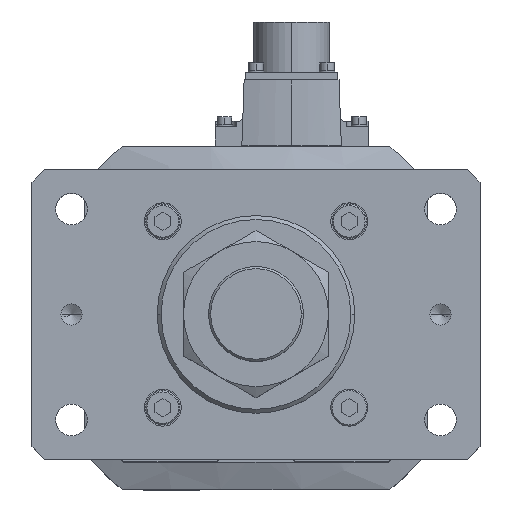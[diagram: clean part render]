
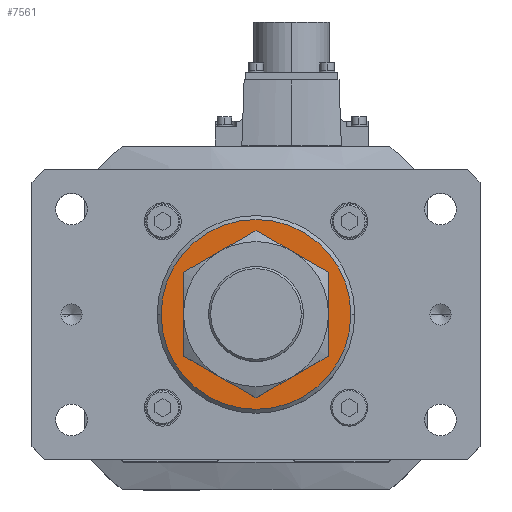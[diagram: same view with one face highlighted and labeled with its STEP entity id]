
A CAD part, top view. The second image highlights one B-rep face of the part: STEP entity #7561.
In plain terms, the highlighted planar face has unit normal (0, 0, 1).
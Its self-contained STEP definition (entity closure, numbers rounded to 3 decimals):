
#967 = VERTEX_POINT ( 'NONE', #20259 ) ;
#2798 = VERTEX_POINT ( 'NONE', #5998 ) ;
#3252 = DIRECTION ( 'NONE',  ( 0., 0., -1. ) ) ;
#3377 = EDGE_CURVE ( 'NONE', #13800, #2798, #26912, .T. ) ;
#4228 = ORIENTED_EDGE ( 'NONE', *, *, #30988, .T. ) ;
#5666 = DIRECTION ( 'NONE',  ( 0., 0., 1. ) ) ;
#5722 = CIRCLE ( 'NONE', #37114, 23. ) ;
#5998 = CARTESIAN_POINT ( 'NONE',  ( -23., 0., 546. ) ) ;
#6197 = DIRECTION ( 'NONE',  ( 0., 0., 1. ) ) ;
#6413 = FACE_OUTER_BOUND ( 'NONE', #17765, .T. ) ;
#7052 = DIRECTION ( 'NONE',  ( 0., 0., 1. ) ) ;
#7561 = ADVANCED_FACE ( 'NONE', ( #14074, #6413 ), #31876, .T. ) ;
#10122 = AXIS2_PLACEMENT_3D ( 'NONE', #34459, #5666, #25677 ) ;
#11486 = AXIS2_PLACEMENT_3D ( 'NONE', #18543, #7052, #15450 ) ;
#13800 = VERTEX_POINT ( 'NONE', #26903 ) ;
#14074 = FACE_BOUND ( 'NONE', #28219, .T. ) ;
#14730 = AXIS2_PLACEMENT_3D ( 'NONE', #23354, #6197, #34393 ) ;
#15450 = DIRECTION ( 'NONE',  ( 1., 0., 0. ) ) ;
#17271 = ORIENTED_EDGE ( 'NONE', *, *, #28509, .T. ) ;
#17554 = AXIS2_PLACEMENT_3D ( 'NONE', #29985, #35273, #24096 ) ;
#17765 = EDGE_LOOP ( 'NONE', ( #4228, #17271 ) ) ;
#18543 = CARTESIAN_POINT ( 'NONE',  ( 0., 0., 546. ) ) ;
#20229 = DIRECTION ( 'NONE',  ( 1., 0., 0. ) ) ;
#20259 = CARTESIAN_POINT ( 'NONE',  ( 36., 0., 546. ) ) ;
#21292 = CIRCLE ( 'NONE', #11486, 36. ) ;
#21512 = CIRCLE ( 'NONE', #10122, 36. ) ;
#21549 = CARTESIAN_POINT ( 'NONE',  ( -36., 0., 546. ) ) ;
#23354 = CARTESIAN_POINT ( 'NONE',  ( 0., 0., 546. ) ) ;
#23859 = EDGE_CURVE ( 'NONE', #2798, #13800, #5722, .T. ) ;
#24096 = DIRECTION ( 'NONE',  ( 1., 0., 0. ) ) ;
#24388 = ORIENTED_EDGE ( 'NONE', *, *, #23859, .T. ) ;
#25677 = DIRECTION ( 'NONE',  ( 1., 0., 0. ) ) ;
#26903 = CARTESIAN_POINT ( 'NONE',  ( 23., 0., 546. ) ) ;
#26912 = CIRCLE ( 'NONE', #17554, 23. ) ;
#28219 = EDGE_LOOP ( 'NONE', ( #30861, #24388 ) ) ;
#28262 = VERTEX_POINT ( 'NONE', #21549 ) ;
#28509 = EDGE_CURVE ( 'NONE', #967, #28262, #21512, .T. ) ;
#29985 = CARTESIAN_POINT ( 'NONE',  ( 0., 0., 546. ) ) ;
#30861 = ORIENTED_EDGE ( 'NONE', *, *, #3377, .T. ) ;
#30988 = EDGE_CURVE ( 'NONE', #28262, #967, #21292, .T. ) ;
#31646 = CARTESIAN_POINT ( 'NONE',  ( 0., 0., 546. ) ) ;
#31876 = PLANE ( 'NONE',  #14730 ) ;
#34393 = DIRECTION ( 'NONE',  ( 1., 0., 0. ) ) ;
#34459 = CARTESIAN_POINT ( 'NONE',  ( 0., 0., 546. ) ) ;
#35273 = DIRECTION ( 'NONE',  ( 0., 0., -1. ) ) ;
#37114 = AXIS2_PLACEMENT_3D ( 'NONE', #31646, #3252, #20229 ) ;
